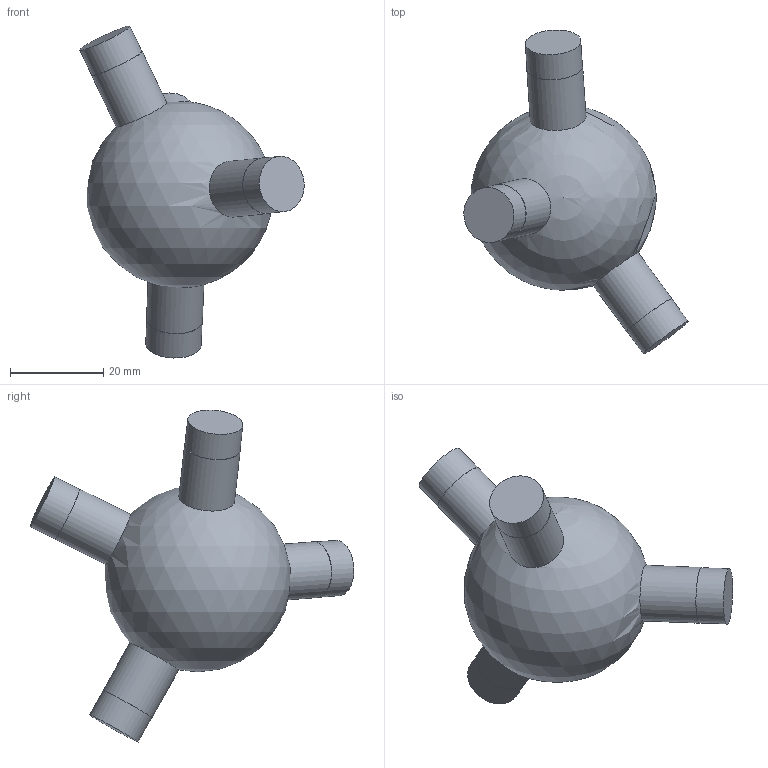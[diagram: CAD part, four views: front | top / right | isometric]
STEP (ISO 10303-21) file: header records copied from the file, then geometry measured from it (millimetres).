
FILE_DESCRIPTION(('Open CASCADE Model'),'2;1');
FILE_NAME('Open CASCADE Shape Model','2026-10-21T12:47:57',('Author'),( 'Open CASCADE'),'Open CASCADE STEP processor 7.9','Open CASCADE 7.9' ,'Unknown');
FILE_SCHEMA(('AUTOMOTIVE_DESIGN { 1 0 10303 214 1 1 1 1 }'));
Length unit declared in the file: millimetre
Products named in the file (1): Open CASCADE STEP translator 7.9 25
Bounding box: 48.11 x 69.48 x 71.22 mm (x, y, z)
Volume: 41438.3 mm3; surface area: 7736 mm2
Topology: 1 solids, 1 shells, 17 faces, 27 edges, 18 vertices
Faces by surface type: cylinder 8, plane 8, sphere 1
Full cylindrical faces by diameter (mm): 11.9 x4, 12 x4
Entity records: 997 total; most frequent: CARTESIAN_POINT 412, DIRECTION 120, ORIENTED_EDGE 48, PCURVE 48, DEFINITIONAL_REPRESENTATION 48, LINE 40, VECTOR 40, AXIS2_PLACEMENT_3D 34
